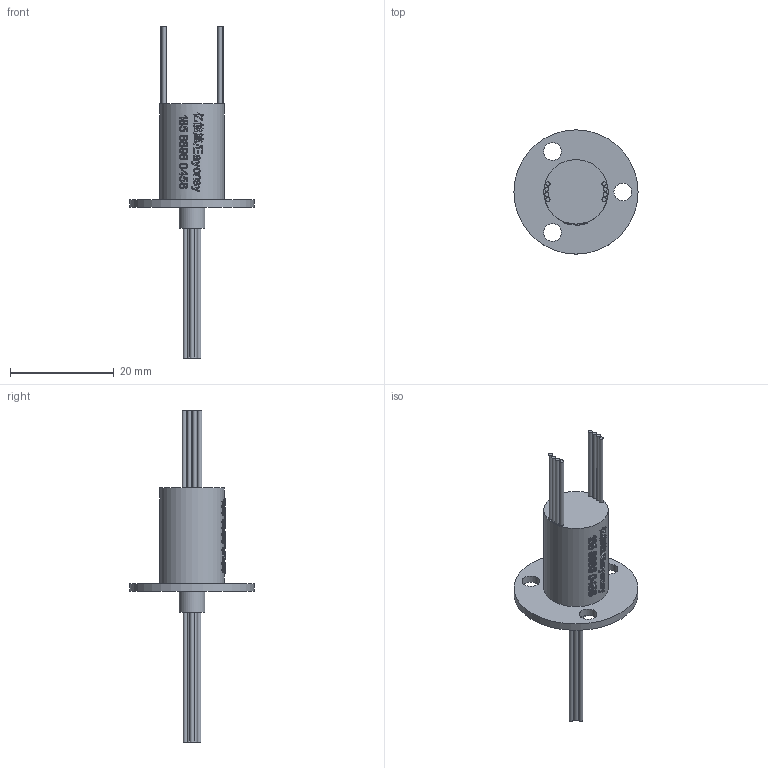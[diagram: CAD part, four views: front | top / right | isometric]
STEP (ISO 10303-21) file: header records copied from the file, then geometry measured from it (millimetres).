
FILE_DESCRIPTION(/* description */ (''),/* implementation_level */ '2;1');
FILE_NAME(/* name */ 'YM012-08.stp',/* time_stamp */ '2025-09-05T08:26:40+08:00',/* author */ (''),/* organization */ (''),/* preprocessor_version */ 'ST-DEVELOPER v16.7',/* originating_system */ 'SIEMENS PLM Software NX 12.0',/* authorisation */ '');
FILE_SCHEMA (('AUTOMOTIVE_DESIGN { 1 0 10303 214 3 1 1 1 }'));
Length unit declared in the file: millimetre
Products named in the file (1): Admi30D0F06639zd
Bounding box: 23.9 x 23.9 x 63.9 mm (x, y, z)
Volume: 3096.5 mm3; surface area: 2626.6 mm2
Topology: 1 solids, 1 shells, 723 faces, 1976 edges, 1318 vertices
Faces by surface type: extrusion 450, plane 206, cylinder 38, bspline 29
Full cylindrical faces by diameter (mm): 0.8 x16, 3.4 x3, 5 x1, 12.4 x1, 23.9 x1
Entity records: 30480 total; most frequent: CARTESIAN_POINT 15415, ORIENTED_EDGE 3904, B_SPLINE_CURVE_WITH_KNOTS 2116, EDGE_CURVE 1952, DIRECTION 1400, VERTEX_POINT 1316, EDGE_LOOP 814, ADVANCED_FACE 723
